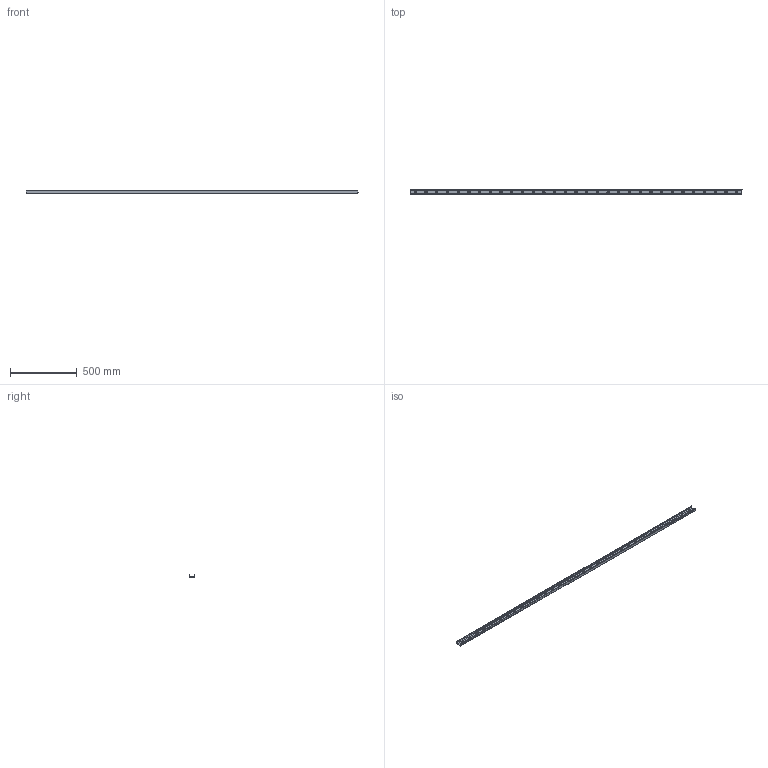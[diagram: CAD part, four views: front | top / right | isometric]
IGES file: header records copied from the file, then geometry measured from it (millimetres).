
Start section: SolidWorks IGES file using analytic representation for surfaces
Global section: file name: C:\Users\IanO\Desktop\43\L1943.ULV43_v2_20180121_IGES\L1943.ULV43-2480.igs; native system: SolidWorks 2017; preprocessor: SolidWorks 2017; author: IanO; date: 190121.090324; units: millimetre
Bounding box: 2480 x 43 x 21 mm (x, y, z)
Surface area: 384898.5 mm2 (no closed solid volume)
Topology: 0 solids, 0 shells, 150 faces, 2774 edges, 2774 vertices
Faces by surface type: revolution 137, bspline 13
